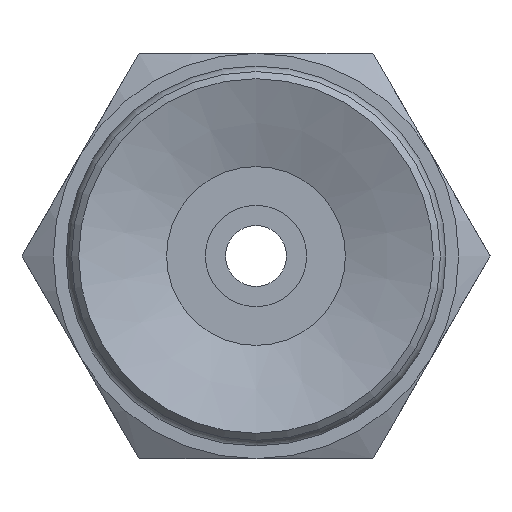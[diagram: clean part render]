
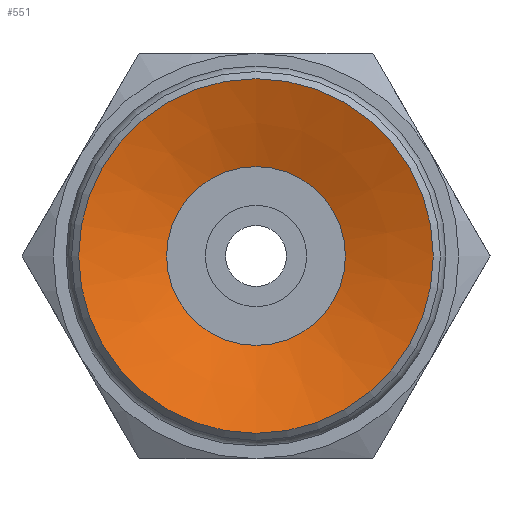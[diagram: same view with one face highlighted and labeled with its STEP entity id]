
A CAD part, front view. The second image highlights one B-rep face of the part: STEP entity #551.
In plain terms, the highlighted conical face has half-angle 70 degrees and reference radius 3.5 mm.
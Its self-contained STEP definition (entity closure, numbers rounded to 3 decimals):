
#551=ADVANCED_FACE('',(#815,#816),#817,.F.);
#815=FACE_BOUND('',#1118,.T.);
#816=FACE_OUTER_BOUND('',#1119,.T.);
#817=CONICAL_SURFACE('',#1120,3.5,1.222);
#1118=EDGE_LOOP('',(#1789));
#1119=EDGE_LOOP('',(#1790));
#1120=AXIS2_PLACEMENT_3D('',#1791,#1792,#1793);
#1789=ORIENTED_EDGE('',*,*,#2084,.F.);
#1790=ORIENTED_EDGE('',*,*,#2065,.T.);
#1791=CARTESIAN_POINT('',(0.0,0.0,0.0));
#1792=DIRECTION('',(-0.0,-1.0,0.));
#1793=DIRECTION('',(0.0,0.,-1.0));
#2065=EDGE_CURVE('',#2349,#2349,#2350,.T.);
#2084=EDGE_CURVE('',#2387,#2387,#2388,.T.);
#2349=VERTEX_POINT('',#2983);
#2350=CIRCLE('',#2984,3.5);
#2387=VERTEX_POINT('',#3021);
#2388=CIRCLE('',#3022,1.765);
#2983=CARTESIAN_POINT('',(0.0,0.,-3.5));
#2984=AXIS2_PLACEMENT_3D('',#3303,#3304,#3305);
#3021=CARTESIAN_POINT('',(0.0,0.632,-1.765));
#3022=AXIS2_PLACEMENT_3D('',#3360,#3361,#3362);
#3303=CARTESIAN_POINT('',(0.0,0.0,0.0));
#3304=DIRECTION('',(0.0,-1.0,0.));
#3305=DIRECTION('',(0.0,0.,-1.0));
#3360=CARTESIAN_POINT('',(0.0,0.632,0.0));
#3361=DIRECTION('',(0.0,-1.0,0.));
#3362=DIRECTION('',(0.0,0.,-1.0));
